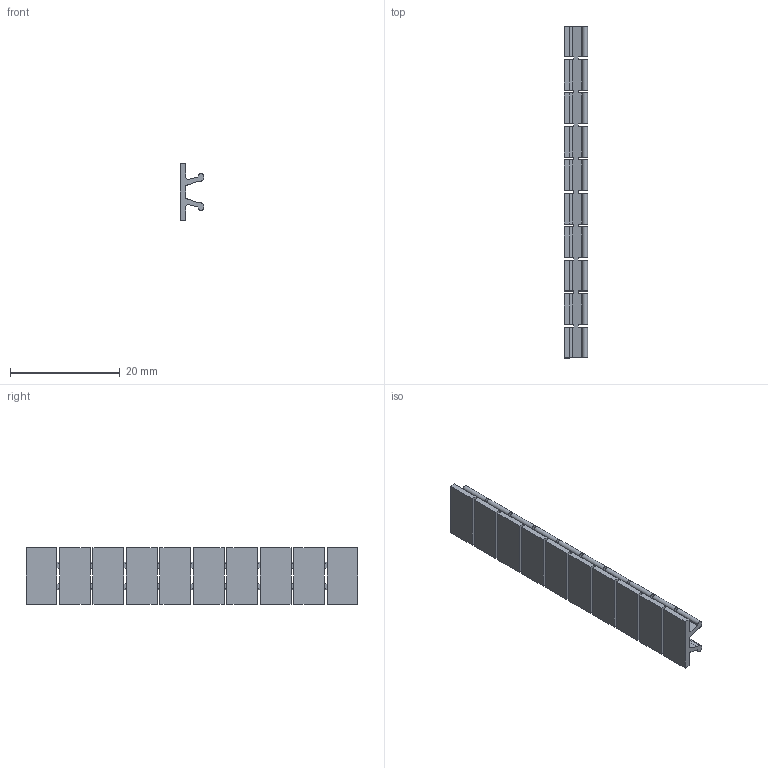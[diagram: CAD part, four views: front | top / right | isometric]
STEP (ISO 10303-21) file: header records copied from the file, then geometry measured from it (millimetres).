
FILE_DESCRIPTION( ('This file contains a STEP AP42 implementation' ,'as created by ZW3D STEP Interface translator.') ,'2;1' );
FILE_NAME( 'ZB6梓暮沭.stp' ,'23 615.174744', (''), ('ZWCAD Software Co.'), 'Version 1.0', 'ZW3D to STEP translator', '' );
FILE_SCHEMA(('AUTOMOTIVE_DESIGN { 1 0 10303 214 1 1 1 1 }'));
Length unit declared in the file: millimetre
Products named in the file (2): 0; ZB6梓暮沭
Bounding box: 4.23 x 60.5 x 10.35 mm (x, y, z)
Volume: 950.8 mm3; surface area: 2369.3 mm2
Topology: 1 solids, 1 shells, 276 faces, 934 edges, 700 vertices
Faces by surface type: plane 216, cylinder 60
Entity records: 10303 total; most frequent: CARTESIAN_POINT 1795, ORIENTED_EDGE 1752, DIRECTION 1614, EDGE_CURVE 876, VECTOR 808, LINE 808, VERTEX_POINT 584, AXIS2_PLACEMENT_3D 403
